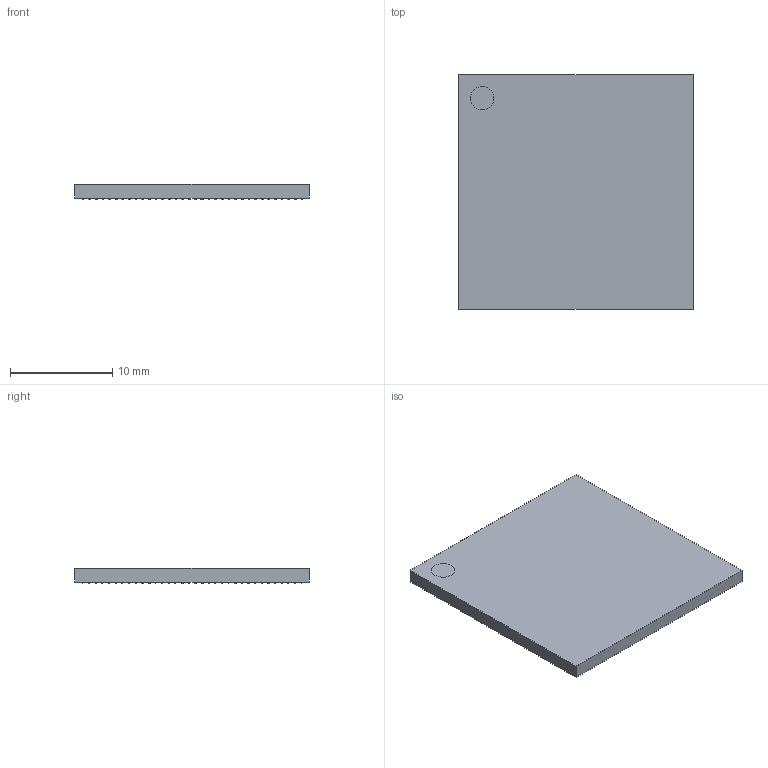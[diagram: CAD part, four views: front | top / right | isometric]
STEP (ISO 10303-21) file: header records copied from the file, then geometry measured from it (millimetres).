
/*
Copyright (C) 2026, KiCAD
This work is licensed under the
[Creative Commons CC-BY-SA 4.0 License](https://creativecommons.org/licenses/by-sa/4.0/legalcode),
with the following exception:
To the extent that the creation of electronic designs that use 'Licensed Material' can be
considered to be 'Adapted Material', then the copyright holder waives article 3 of the license
with respect to these designs and any generated files which use data provided as part of the
'Licensed Material'.
You are free to use the library data in your own projects without the obligation to share your
project files under this or any other license agreement. However, if you wish to distribute
these libraries, or parts thereof (including in modified form) as a collection then the exception
above does not apply. Please refer to
https://gitlab.com/kicad/libraries/kicad-packages3D/-/blob/master/LICENSE.md for further clarification
of the exception.
Disclaimer of Warranties and Limitation of Liability.
These libraries are provided in the hope that they will be useful, but are provided without warranty of any kind, express or implied.
*/
FILE_DESCRIPTION(/* description */ ('model of TFBGA-1088_23x23mm_Layout34x34_P0.65mm'),/* implementation_level */ '2;1');
FILE_NAME(/* name */ 'TFBGA-1088_23x23mm_Layout34x34_P0.65mm.step',/* time_stamp */ '1970-01-01T00:00:00',/* author */ ('KiCAD','kicad'),/* organization */ ('OCCT'),/* preprocessor_version */ '',/* originating_system */ 'KiCAD',/* authorisation */ '');
FILE_SCHEMA(('AUTOMOTIVE_DESIGN { 1 0 10303 214 1 1 1 1 }'));
Length unit declared in the file: millimetre
Products named in the file (1): TFBGA-1088_23x23mm_Layout34x34_P0.65mm
Bounding box: 23 x 23 x 1.51 mm (x, y, z)
Volume: 725.4 mm3; surface area: 1268.4 mm2
Topology: 1 solids, 1 shells, 1096 faces, 3279 edges, 2186 vertices
Faces by surface type: sphere 1088, plane 7, cylinder 1
Full cylindrical faces by diameter (mm): 2.3 x1
Entity records: 26292 total; most frequent: CARTESIAN_POINT 4365, ORIENTED_EDGE 3287, AXIS2_PLACEMENT_3D 3274, EDGE_CURVE 2191, VERTEX_POINT 2186, FACE_BOUND 2185, EDGE_LOOP 2185, CIRCLE 2178
